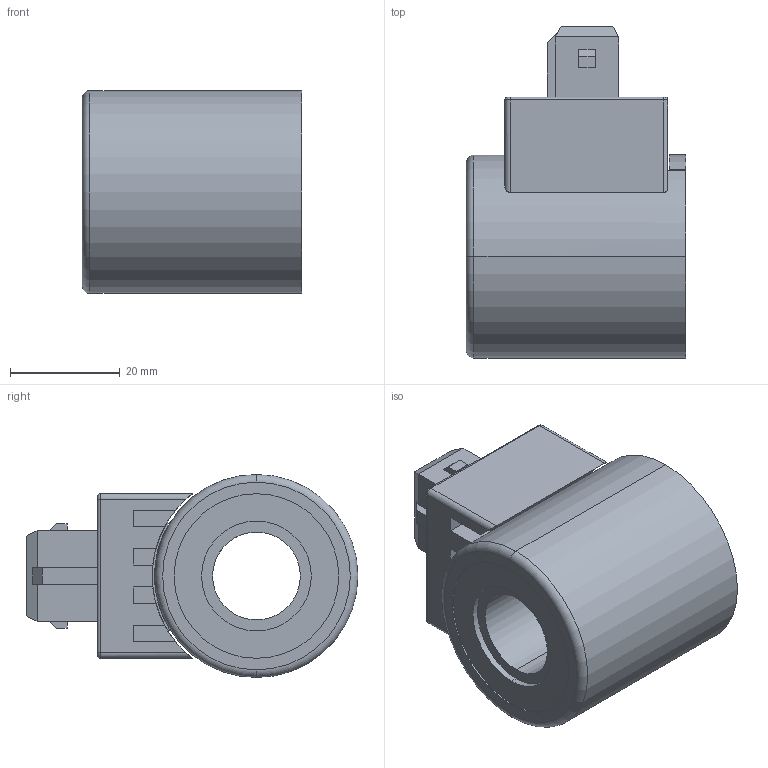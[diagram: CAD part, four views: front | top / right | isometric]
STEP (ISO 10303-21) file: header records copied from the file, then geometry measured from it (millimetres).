
FILE_DESCRIPTION (( 'STEP AP214' ), '1' );
FILE_NAME ('WJE37_16x40.STEP', '2017-04-06T10:54:20', ( '' ), ( '' ), 'SwSTEP 2.0', 'SolidWorks 2016', '' );
FILE_SCHEMA (( 'AUTOMOTIVE_DESIGN' ));
Length unit declared in the file: millimetre
Products named in the file (1): WJE37_16x40
Bounding box: 40 x 60.5 x 37 mm (x, y, z)
Volume: 44616.8 mm3; surface area: 13932.3 mm2
Topology: 3 solids, 3 shells, 121 faces, 304 edges, 195 vertices
Faces by surface type: plane 87, cylinder 25, bspline 4, cone 3, torus 2
Entity records: 5163 total; most frequent: CARTESIAN_POINT 859, ORIENTED_EDGE 608, DIRECTION 591, EDGE_CURVE 304, LINE 225, VECTOR 225, VERTEX_POINT 195, AXIS2_PLACEMENT_3D 183
